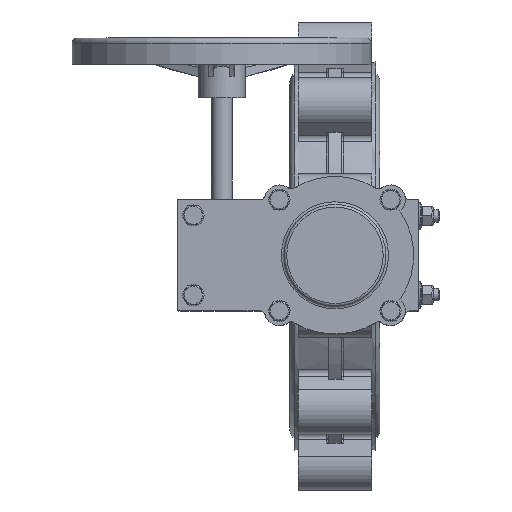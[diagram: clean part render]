
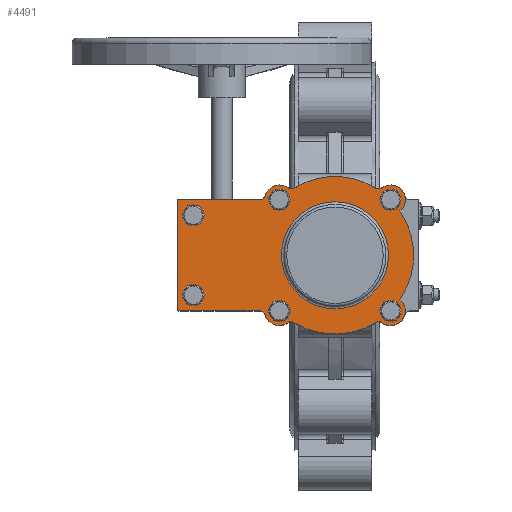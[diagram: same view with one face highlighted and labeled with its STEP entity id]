
A CAD part, top view. The second image highlights one B-rep face of the part: STEP entity #4491.
In plain terms, the highlighted planar face has unit normal (0, 0, 1).
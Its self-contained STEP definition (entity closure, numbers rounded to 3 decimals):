
#4491=ADVANCED_FACE('',(#10125,#10127,#10129,#10131,#10133,#10135,#10137,#10139),
#10141,.T.);
#10125=FACE_BOUND('',#10126,.T.);
#10126=EDGE_LOOP('',(#18420,#18421,#18422,#18423,#18424,#18425,#18426,#18427,#18428,
#18429,#18430,#18431,#18432,#18433,#18434,#18435));
#10127=FACE_BOUND('',#10128,.T.);
#10128=EDGE_LOOP('',(#18436));
#10129=FACE_BOUND('',#10130,.T.);
#10130=EDGE_LOOP('',(#18437));
#10131=FACE_BOUND('',#10132,.T.);
#10132=EDGE_LOOP('',(#18438));
#10133=FACE_BOUND('',#10134,.T.);
#10134=EDGE_LOOP('',(#18439));
#10135=FACE_BOUND('',#10136,.T.);
#10136=EDGE_LOOP('',(#18440));
#10137=FACE_BOUND('',#10138,.T.);
#10138=EDGE_LOOP('',(#18441));
#10139=FACE_BOUND('',#10140,.T.);
#10140=EDGE_LOOP('',(#18442));
#10141=PLANE('',#10142);
#10142=AXIS2_PLACEMENT_3D('',#10143,#10144,#10145);
#10143=CARTESIAN_POINT('',(0.,0.,5.));
#10144=DIRECTION('',(0.,0.,1.));
#10145=DIRECTION('',(0.,1.,0.));
#18420=ORIENTED_EDGE('',*,*,#20986,.T.);
#18421=ORIENTED_EDGE('',*,*,#20987,.T.);
#18422=ORIENTED_EDGE('',*,*,#20988,.T.);
#18423=ORIENTED_EDGE('',*,*,#20989,.T.);
#18424=ORIENTED_EDGE('',*,*,#20990,.T.);
#18425=ORIENTED_EDGE('',*,*,#20991,.T.);
#18426=ORIENTED_EDGE('',*,*,#20992,.T.);
#18427=ORIENTED_EDGE('',*,*,#20993,.T.);
#18428=ORIENTED_EDGE('',*,*,#20994,.T.);
#18429=ORIENTED_EDGE('',*,*,#20995,.T.);
#18430=ORIENTED_EDGE('',*,*,#20996,.T.);
#18431=ORIENTED_EDGE('',*,*,#20997,.T.);
#18432=ORIENTED_EDGE('',*,*,#20998,.T.);
#18433=ORIENTED_EDGE('',*,*,#20999,.T.);
#18434=ORIENTED_EDGE('',*,*,#21000,.T.);
#18435=ORIENTED_EDGE('',*,*,#21001,.T.);
#18436=ORIENTED_EDGE('',*,*,#21002,.T.);
#18437=ORIENTED_EDGE('',*,*,#21003,.T.);
#18438=ORIENTED_EDGE('',*,*,#21004,.T.);
#18439=ORIENTED_EDGE('',*,*,#21005,.T.);
#18440=ORIENTED_EDGE('',*,*,#21006,.T.);
#18441=ORIENTED_EDGE('',*,*,#21007,.T.);
#18442=ORIENTED_EDGE('',*,*,#21008,.F.);
#20986=EDGE_CURVE('',#24485,#24486,#24487,.T.);
#20987=EDGE_CURVE('',#24486,#24488,#24489,.T.);
#20988=EDGE_CURVE('',#24488,#24490,#24491,.T.);
#20989=EDGE_CURVE('',#24490,#24492,#24493,.T.);
#20990=EDGE_CURVE('',#24492,#24494,#24495,.T.);
#20991=EDGE_CURVE('',#24494,#24496,#24497,.T.);
#20992=EDGE_CURVE('',#24496,#24498,#24499,.T.);
#20993=EDGE_CURVE('',#24498,#24500,#24501,.T.);
#20994=EDGE_CURVE('',#24500,#24502,#24503,.T.);
#20995=EDGE_CURVE('',#24502,#24504,#24505,.T.);
#20996=EDGE_CURVE('',#24504,#24506,#24507,.T.);
#20997=EDGE_CURVE('',#24506,#24508,#24509,.T.);
#20998=EDGE_CURVE('',#24508,#24510,#24511,.T.);
#20999=EDGE_CURVE('',#24510,#24512,#24513,.T.);
#21000=EDGE_CURVE('',#24512,#24514,#24515,.T.);
#21001=EDGE_CURVE('',#24514,#24485,#24516,.T.);
#21002=EDGE_CURVE('',#24517,#24517,#24518,.F.);
#21003=EDGE_CURVE('',#24519,#24519,#24520,.F.);
#21004=EDGE_CURVE('',#24521,#24521,#24522,.F.);
#21005=EDGE_CURVE('',#24523,#24523,#24524,.F.);
#21006=EDGE_CURVE('',#24525,#24525,#24526,.F.);
#21007=EDGE_CURVE('',#24527,#24527,#24528,.F.);
#21008=EDGE_CURVE('',#24529,#24529,#24530,.T.);
#24485=VERTEX_POINT('',#35745);
#24486=VERTEX_POINT('',#35746);
#24487=CIRCLE('',#35747,5.);
#24488=VERTEX_POINT('',#35751);
#24489=CIRCLE('',#35752,14.);
#24490=VERTEX_POINT('',#35756);
#24491=CIRCLE('',#35757,5.);
#24492=VERTEX_POINT('',#35761);
#24493=LINE('',#35762,#35763);
#24494=VERTEX_POINT('',#35765);
#24495=LINE('',#35766,#35767);
#24496=VERTEX_POINT('',#35769);
#24497=LINE('',#35770,#35771);
#24498=VERTEX_POINT('',#35773);
#24499=CIRCLE('',#35774,5.);
#24500=VERTEX_POINT('',#35778);
#24501=CIRCLE('',#35779,14.);
#24502=VERTEX_POINT('',#35783);
#24503=CIRCLE('',#35784,5.);
#24504=VERTEX_POINT('',#35788);
#24505=CIRCLE('',#35789,75.);
#24506=VERTEX_POINT('',#35793);
#24507=CIRCLE('',#35794,5.);
#24508=VERTEX_POINT('',#35798);
#24509=CIRCLE('',#35799,14.);
#24510=VERTEX_POINT('',#35803);
#24511=CIRCLE('',#35804,75.);
#24512=VERTEX_POINT('',#35808);
#24513=CIRCLE('',#35809,14.);
#24514=VERTEX_POINT('',#35813);
#24515=CIRCLE('',#35814,5.);
#24516=CIRCLE('',#35818,75.);
#24517=VERTEX_POINT('',#35822);
#24518=CIRCLE('',#35823,6.);
#24519=VERTEX_POINT('',#35827);
#24520=CIRCLE('',#35828,6.);
#24521=VERTEX_POINT('',#35832);
#24522=CIRCLE('',#35833,6.);
#24523=VERTEX_POINT('',#35837);
#24524=CIRCLE('',#35838,6.);
#24525=VERTEX_POINT('',#35842);
#24526=CIRCLE('',#35843,6.);
#24527=VERTEX_POINT('',#35847);
#24528=CIRCLE('',#35848,6.);
#24529=VERTEX_POINT('',#35852);
#24530=CIRCLE('',#35853,51.);
#35745=CARTESIAN_POINT('',(64.01,39.086,5.));
#35746=CARTESIAN_POINT('',(64.266,44.677,5.));
#35747=AXIS2_PLACEMENT_3D('',#35748,#35749,#35750);
#35748=CARTESIAN_POINT('',(68.277,41.692,5.));
#35749=DIRECTION('',(0.,0.,-1.));
#35750=DIRECTION('',(-0.853,-0.521,0.));
#35751=CARTESIAN_POINT('',(56.717,66.54,5.));
#35752=AXIS2_PLACEMENT_3D('',#35753,#35754,#35755);
#35753=CARTESIAN_POINT('',(53.033,53.033,5.));
#35754=DIRECTION('',(0.,0.,1.));
#35755=DIRECTION('',(0.802,-0.597,0.));
#35756=CARTESIAN_POINT('',(53.033,71.363,5.));
#35757=AXIS2_PLACEMENT_3D('',#35758,#35759,#35760);
#35758=CARTESIAN_POINT('',(58.033,71.363,5.));
#35759=DIRECTION('',(0.,0.,-1.));
#35760=DIRECTION('',(-0.263,-0.965,0.));
#35761=CARTESIAN_POINT('',(53.033,150.,5.));
#35762=CARTESIAN_POINT('',(53.033,71.363,5.));
#35763=VECTOR('',#35764,1.);
#35764=DIRECTION('',(0.,1.,0.));
#35765=CARTESIAN_POINT('',(-53.033,150.,5.));
#35766=CARTESIAN_POINT('',(53.033,150.,5.));
#35767=VECTOR('',#35768,1.);
#35768=DIRECTION('',(-1.,0.,0.));
#35769=CARTESIAN_POINT('',(-53.033,71.363,5.));
#35770=CARTESIAN_POINT('',(-53.033,150.,5.));
#35771=VECTOR('',#35772,1.);
#35772=DIRECTION('',(0.,-1.,0.));
#35773=CARTESIAN_POINT('',(-56.717,66.54,5.));
#35774=AXIS2_PLACEMENT_3D('',#35775,#35776,#35777);
#35775=CARTESIAN_POINT('',(-58.033,71.363,5.));
#35776=DIRECTION('',(0.,0.,-1.));
#35777=DIRECTION('',(1.,0.,0.));
#35778=CARTESIAN_POINT('',(-64.266,44.677,5.));
#35779=AXIS2_PLACEMENT_3D('',#35780,#35781,#35782);
#35780=CARTESIAN_POINT('',(-53.033,53.033,5.));
#35781=DIRECTION('',(0.,0.,1.));
#35782=DIRECTION('',(-0.263,0.965,0.));
#35783=CARTESIAN_POINT('',(-64.01,39.086,5.));
#35784=AXIS2_PLACEMENT_3D('',#35785,#35786,#35787);
#35785=CARTESIAN_POINT('',(-68.277,41.692,5.));
#35786=DIRECTION('',(0.,0.,-1.));
#35787=DIRECTION('',(0.802,0.597,0.));
#35788=CARTESIAN_POINT('',(-64.01,-39.086,5.));
#35789=AXIS2_PLACEMENT_3D('',#35790,#35791,#35792);
#35790=CARTESIAN_POINT('',(0.,0.,5.));
#35791=DIRECTION('',(0.,0.,1.));
#35792=DIRECTION('',(-0.853,0.521,0.));
#35793=CARTESIAN_POINT('',(-64.266,-44.677,5.));
#35794=AXIS2_PLACEMENT_3D('',#35795,#35796,#35797);
#35795=CARTESIAN_POINT('',(-68.277,-41.692,5.));
#35796=DIRECTION('',(0.,0.,-1.));
#35797=DIRECTION('',(0.853,0.521,0.));
#35798=CARTESIAN_POINT('',(-42.253,-61.965,5.));
#35799=AXIS2_PLACEMENT_3D('',#35800,#35801,#35802);
#35800=CARTESIAN_POINT('',(-53.033,-53.033,5.));
#35801=DIRECTION('',(0.,0.,1.));
#35802=DIRECTION('',(-0.802,0.597,0.));
#35803=CARTESIAN_POINT('',(42.253,-61.965,5.));
#35804=AXIS2_PLACEMENT_3D('',#35805,#35806,#35807);
#35805=CARTESIAN_POINT('',(0.,0.,5.));
#35806=DIRECTION('',(0.,0.,1.));
#35807=DIRECTION('',(-0.563,-0.826,0.));
#35808=CARTESIAN_POINT('',(64.266,-44.677,5.));
#35809=AXIS2_PLACEMENT_3D('',#35810,#35811,#35812);
#35810=CARTESIAN_POINT('',(53.033,-53.033,5.));
#35811=DIRECTION('',(0.,0.,1.));
#35812=DIRECTION('',(-0.77,-0.638,0.));
#35813=CARTESIAN_POINT('',(64.01,-39.086,5.));
#35814=AXIS2_PLACEMENT_3D('',#35815,#35816,#35817);
#35815=CARTESIAN_POINT('',(68.277,-41.692,5.));
#35816=DIRECTION('',(0.,0.,-1.));
#35817=DIRECTION('',(-0.802,-0.597,0.));
#35818=AXIS2_PLACEMENT_3D('',#35819,#35820,#35821);
#35819=CARTESIAN_POINT('',(0.,0.,5.));
#35820=DIRECTION('',(0.,0.,1.));
#35821=DIRECTION('',(0.853,-0.521,0.));
#35822=CARTESIAN_POINT('',(-32.033,135.,5.));
#35823=AXIS2_PLACEMENT_3D('',#35824,#35825,#35826);
#35824=CARTESIAN_POINT('',(-38.033,135.,5.));
#35825=DIRECTION('',(0.,0.,1.));
#35826=DIRECTION('',(1.,0.,0.));
#35827=CARTESIAN_POINT('',(44.033,135.,5.));
#35828=AXIS2_PLACEMENT_3D('',#35829,#35830,#35831);
#35829=CARTESIAN_POINT('',(38.033,135.,5.));
#35830=DIRECTION('',(0.,0.,1.));
#35831=DIRECTION('',(1.,0.,0.));
#35832=CARTESIAN_POINT('',(53.033,59.033,5.));
#35833=AXIS2_PLACEMENT_3D('',#35834,#35835,#35836);
#35834=CARTESIAN_POINT('',(53.033,53.033,5.));
#35835=DIRECTION('',(0.,0.,1.));
#35836=DIRECTION('',(0.,1.,0.));
#35837=CARTESIAN_POINT('',(59.033,-53.033,5.));
#35838=AXIS2_PLACEMENT_3D('',#35839,#35840,#35841);
#35839=CARTESIAN_POINT('',(53.033,-53.033,5.));
#35840=DIRECTION('',(0.,0.,1.));
#35841=DIRECTION('',(1.,0.,0.));
#35842=CARTESIAN_POINT('',(-53.033,-59.033,5.));
#35843=AXIS2_PLACEMENT_3D('',#35844,#35845,#35846);
#35844=CARTESIAN_POINT('',(-53.033,-53.033,5.));
#35845=DIRECTION('',(0.,0.,1.));
#35846=DIRECTION('',(0.,-1.,0.));
#35847=CARTESIAN_POINT('',(-59.033,53.033,5.));
#35848=AXIS2_PLACEMENT_3D('',#35849,#35850,#35851);
#35849=CARTESIAN_POINT('',(-53.033,53.033,5.));
#35850=DIRECTION('',(0.,0.,1.));
#35851=DIRECTION('',(-1.,0.,0.));
#35852=CARTESIAN_POINT('',(-51.,0.,5.));
#35853=AXIS2_PLACEMENT_3D('',#35854,#35855,#35856);
#35854=CARTESIAN_POINT('',(0.,0.,5.));
#35855=DIRECTION('',(0.,0.,1.));
#35856=DIRECTION('',(-1.,0.,0.));
